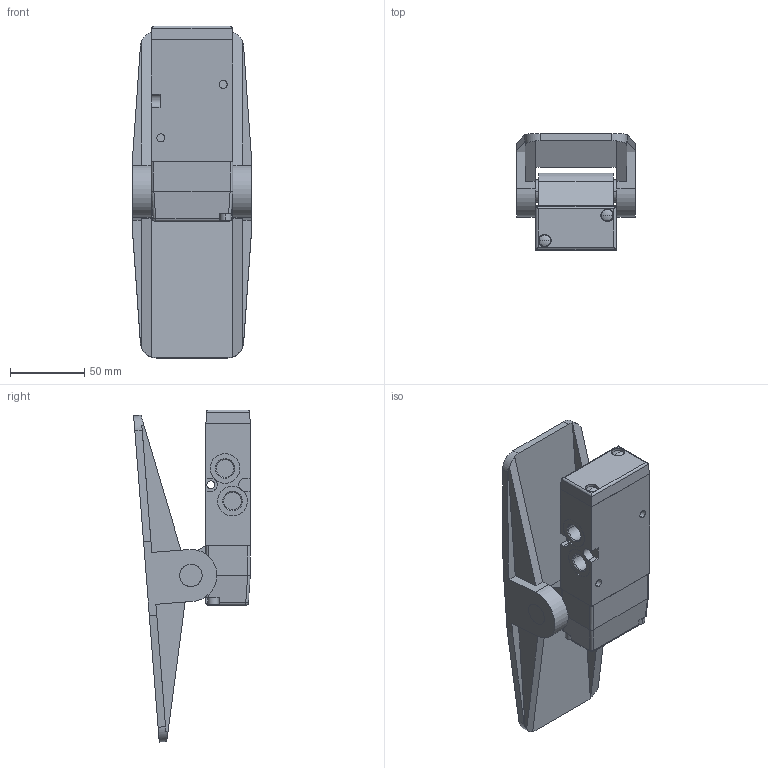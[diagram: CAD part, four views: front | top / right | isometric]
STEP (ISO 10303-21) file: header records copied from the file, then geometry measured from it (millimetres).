
FILE_DESCRIPTION((''),'2;1');
FILE_NAME('5634695100_ASM','2018-07-19T',('tng2hc'),(''),'CREO PARAMETRIC BY PTC INC, 2016260','CREO PARAMETRIC BY PTC INC, 2016260','');
FILE_SCHEMA(('CONFIG_CONTROL_DESIGN'));
Length unit declared in the file: millimetre
Products named in the file (3): 5634695100-B; 5634695100-D; 5634695100_ASM
Assembly tree (2 placements, depth 2):
  5634695100_ASM
    5634695100-B
    5634695100-D
Bounding box: 80 x 78.54 x 223.31 mm (x, y, z)
Volume: 370324.3 mm3; surface area: 83591.9 mm2
Topology: 2 solids, 2 shells, 171 faces, 418 edges, 266 vertices
Faces by surface type: plane 83, cylinder 68, cone 14, sphere 6
Entity records: 5343 total; most frequent: CARTESIAN_POINT 1110, DIRECTION 894, ORIENTED_EDGE 828, EDGE_CURVE 414, AXIS2_PLACEMENT_3D 322, VERTEX_POINT 266, VECTOR 250, LINE 250
